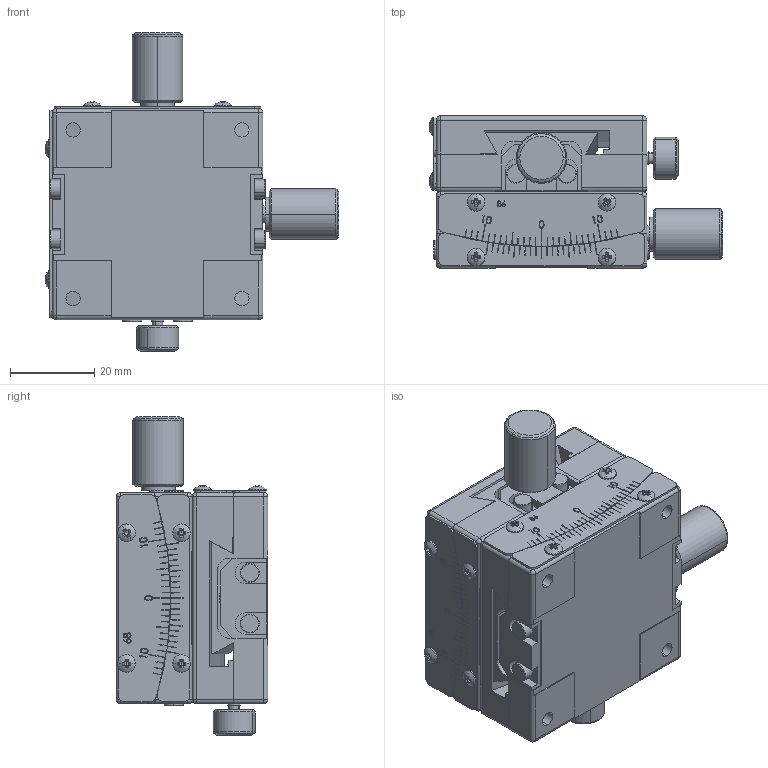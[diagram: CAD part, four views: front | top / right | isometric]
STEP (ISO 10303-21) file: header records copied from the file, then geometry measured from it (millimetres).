
FILE_DESCRIPTION (( 'STEP AP203' ), '1' );
FILE_NAME ('MYG5-68CS-(«¬¿ý).STEP', '2013-10-15T08:59:29', ( '' ), ( '' ), 'SwSTEP 2.0', 'SolidWorks 2013', '' );
FILE_SCHEMA (( 'CONFIG_CONTROL_DESIGN' ));
Products named in the file (8): Group1^MXG5-68CS-(型錄); Group2^MXG5-68CS-(型錄); SC2.5B006-4^MXG5-68CS-(型錄); MXG5-68CS-(型錄); MYG5-68CS-(型錄); Group1^MXG5-86CS-(型錄); Group2^MXG5-86CS-(型錄); MXG5-86CS-(型錄)
Assembly tree (7 placements, depth 3):
  MYG5-68CS-(型錄)
    MXG5-86CS-(型錄)
      Group1^MXG5-86CS-(型錄)
      Group2^MXG5-86CS-(型錄)
    MXG5-68CS-(型錄)
      Group1^MXG5-68CS-(型錄)
      Group2^MXG5-68CS-(型錄)
      SC2.5B006-4^MXG5-68CS-(型錄)
Bounding box: 69.63 x 36 x 75.47 mm (x, y, z)
Volume: 88200.6 mm3; surface area: 37603.9 mm2
Topology: 5 solids, 5 shells, 2379 faces, 6149 edges, 3973 vertices
Faces by surface type: plane 1506, bspline 388, cylinder 298, cone 129, sphere 32, torus 26
Entity records: 93333 total; most frequent: CARTESIAN_POINT 36777, ORIENTED_EDGE 12162, DIRECTION 10166, EDGE_CURVE 6081, VECTOR 4198, LINE 4198, VERTEX_POINT 3973, AXIS2_PLACEMENT_3D 2984
